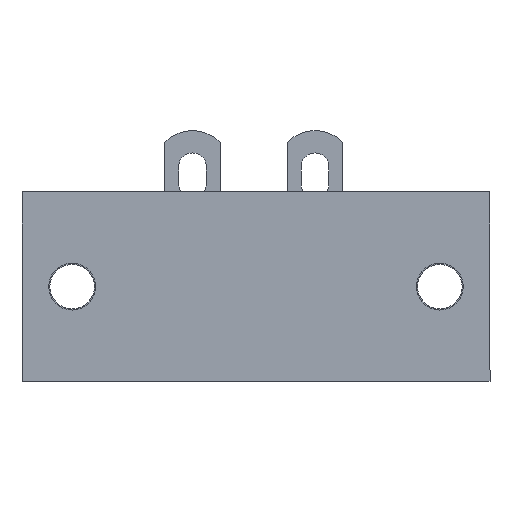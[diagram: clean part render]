
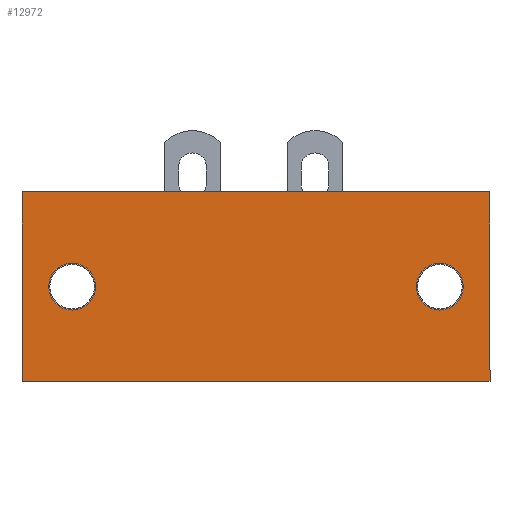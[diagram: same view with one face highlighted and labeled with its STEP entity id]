
A CAD part, front view. The second image highlights one B-rep face of the part: STEP entity #12972.
In plain terms, the highlighted planar face has unit normal (0, -1, 0).
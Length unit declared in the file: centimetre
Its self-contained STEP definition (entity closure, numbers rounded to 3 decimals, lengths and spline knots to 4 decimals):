
#588=CIRCLE('',#21186,0.21);
#657=CIRCLE('',#21481,0.21);
#1268=VERTEX_POINT('',#18254);
#1269=VERTEX_POINT('',#18255);
#1280=VERTEX_POINT('',#18279);
#1806=VERTEX_POINT('',#20339);
#1807=VERTEX_POINT('',#20340);
#1818=VERTEX_POINT('',#20364);
#2635=VECTOR('',#14624,1.);
#3223=VECTOR('',#15615,1.);
#3311=VECTOR('',#15792,1.);
#3312=VECTOR('',#15793,1.);
#4112=LINE('',#18253,#2635);
#4700=LINE('',#20338,#3223);
#4788=LINE('',#20566,#3311);
#4789=LINE('',#20567,#3312);
#5797=EDGE_CURVE('',#1268,#1269,#4112,.T.);
#5809=EDGE_CURVE('',#1280,#1280,#588,.T.);
#6580=EDGE_CURVE('',#1806,#1807,#4700,.T.);
#6592=EDGE_CURVE('',#1818,#1818,#657,.T.);
#6697=EDGE_CURVE('',#1807,#1268,#4788,.T.);
#6698=EDGE_CURVE('',#1269,#1806,#4789,.T.);
#10280=ORIENTED_EDGE('',*,*,#5809,.T.);
#10281=ORIENTED_EDGE('',*,*,#6592,.T.);
#10282=ORIENTED_EDGE('',*,*,#6697,.T.);
#10283=ORIENTED_EDGE('',*,*,#5797,.T.);
#10284=ORIENTED_EDGE('',*,*,#6698,.T.);
#10285=ORIENTED_EDGE('',*,*,#6580,.T.);
#11450=EDGE_LOOP('',(#10280));
#11451=EDGE_LOOP('',(#10281));
#11452=EDGE_LOOP('',(#10282,#10283,#10284,#10285));
#12250=FACE_BOUND('',#11450,.T.);
#12251=FACE_BOUND('',#11451,.T.);
#12252=FACE_BOUND('',#11452,.T.);
#12972=ADVANCED_FACE('',(#12250,#12251,#12252),#13484,.T.);
#13484=PLANE('',#21526);
#14624=DIRECTION('',(-1.,0.,0.));
#14642=DIRECTION('',(0.,1.,0.));
#14643=DIRECTION('',(0.,0.,0.21));
#15615=DIRECTION('',(1.,0.,0.));
#15633=DIRECTION('',(0.,1.,0.));
#15634=DIRECTION('',(0.,0.,-0.21));
#15791=DIRECTION('',(0.,-1.,0.));
#15792=DIRECTION('',(0.,0.,1.));
#15793=DIRECTION('',(0.,0.,-1.));
#18253=CARTESIAN_POINT('',(-0.85,-0.95,2.67));
#18254=CARTESIAN_POINT('',(0.85,-0.95,2.67));
#18255=CARTESIAN_POINT('',(-0.85,-0.95,2.67));
#18278=CARTESIAN_POINT('',(0.,-0.95,2.22));
#18279=CARTESIAN_POINT('',(0.,-0.95,2.01));
#20338=CARTESIAN_POINT('',(0.85,-0.95,-1.53));
#20339=CARTESIAN_POINT('',(-0.85,-0.95,-1.53));
#20340=CARTESIAN_POINT('',(0.85,-0.95,-1.53));
#20363=CARTESIAN_POINT('',(0.,-0.95,-1.08));
#20364=CARTESIAN_POINT('',(0.,-0.95,-0.87));
#20565=CARTESIAN_POINT('',(0.,-0.95,-0.63));
#20566=CARTESIAN_POINT('',(0.85,-0.95,-0.63));
#20567=CARTESIAN_POINT('',(-0.85,-0.95,-0.63));
#21186=AXIS2_PLACEMENT_3D('',#18278,#14642,#14643);
#21481=AXIS2_PLACEMENT_3D('',#20363,#15633,#15634);
#21526=AXIS2_PLACEMENT_3D('',#20565,#15791,$);
